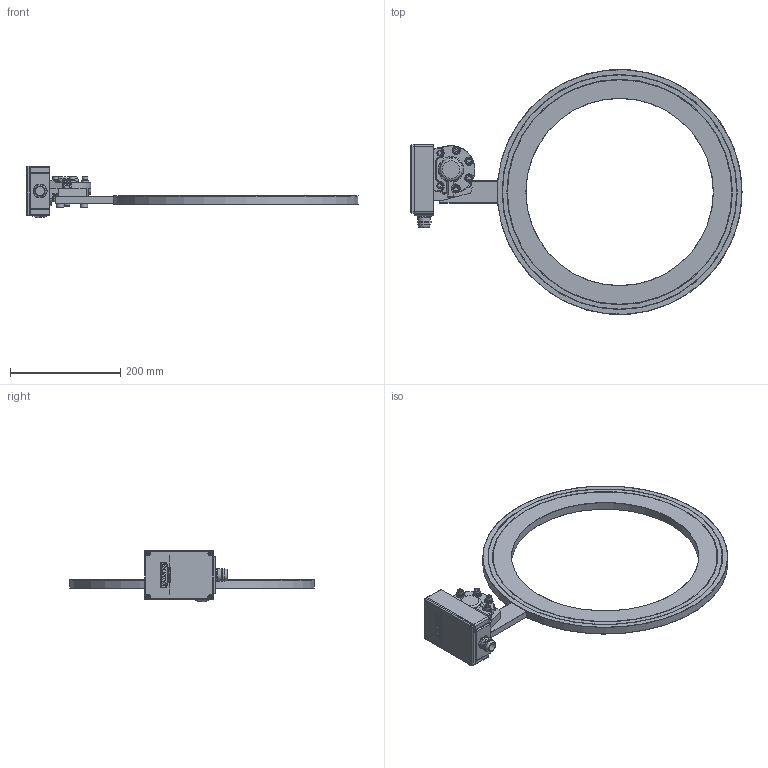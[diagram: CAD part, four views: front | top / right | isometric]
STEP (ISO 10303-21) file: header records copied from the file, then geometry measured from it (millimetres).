
FILE_DESCRIPTION(/* description */ ('Alibre Inc.'),/* implementation_level */ '2;1');
FILE_NAME(/* name */ 'export0',/* time_stamp */ '2012-10-19T13:18:54+02:00',/* author */ (''),/* organization */ (''),/* preprocessor_version */ 'ST-DEVELOPER v14',/* originating_system */ 'Alibre',/* authorisation */ '');
FILE_SCHEMA (('CONFIG_CONTROL_DESIGN'));
Length unit declared in the file: centimetre
Products named in the file (12): ID_1; ID_2; ID_3; ID_4; ID_5; ID_6; ID_7; ID_8; ID_9
Bounding box: 602.93 x 444.17 x 93.66 mm (x, y, z)
Volume: 1284632.1 mm3; surface area: 327085.1 mm2
Topology: 21 solids, 21 shells, 1085 faces, 2568 edges, 1593 vertices
Faces by surface type: plane 538, cylinder 231, bspline 162, cone 76, torus 70, sphere 8
Full cylindrical faces by diameter (mm): 3.9 x2, 5 x22, 5.5 x1, 5.541 x2, 6 x14, 6.038 x2, 6.5 x6, 8 x9, 8.5 x2, 9.6 x6, 10 x11, 10.5 x1, 12 x3, 13 x2, 14 x3, 16 x1, 17.966 x1, 19.5 x1, 22 x2, 22.5 x4, 29 x1, 31 x1, 340 x1, 408 x2, 409 x2, 426 x2, 427 x2
Entity records: 34338 total; most frequent: CARTESIAN_POINT 14030, ORIENTED_EDGE 3988, DIRECTION 3168, EDGE_CURVE 1994, VERTEX_POINT 1333, AXIS2_PLACEMENT_3D 1279, EDGE_LOOP 1159, FACE_BOUND 1159
